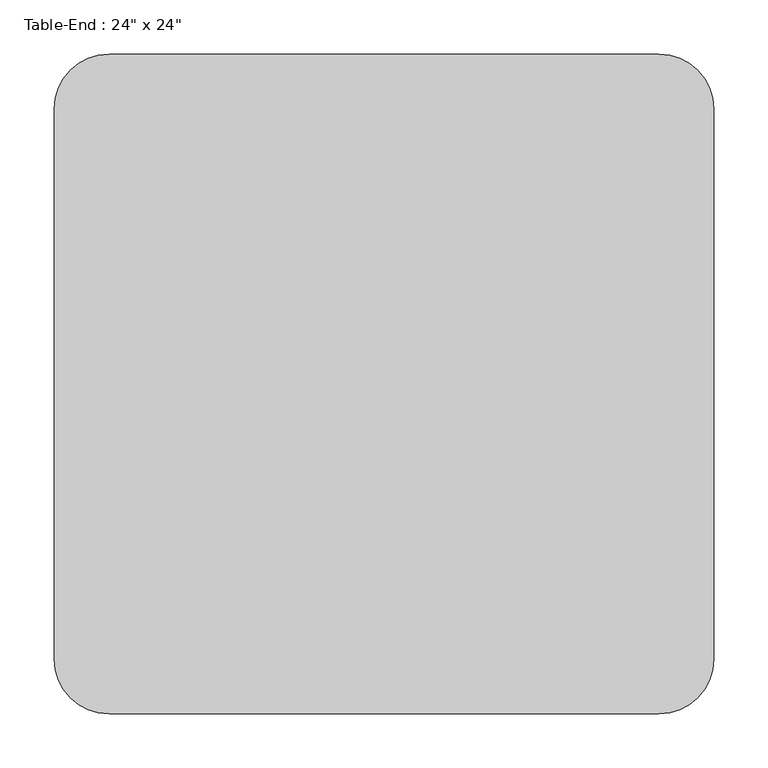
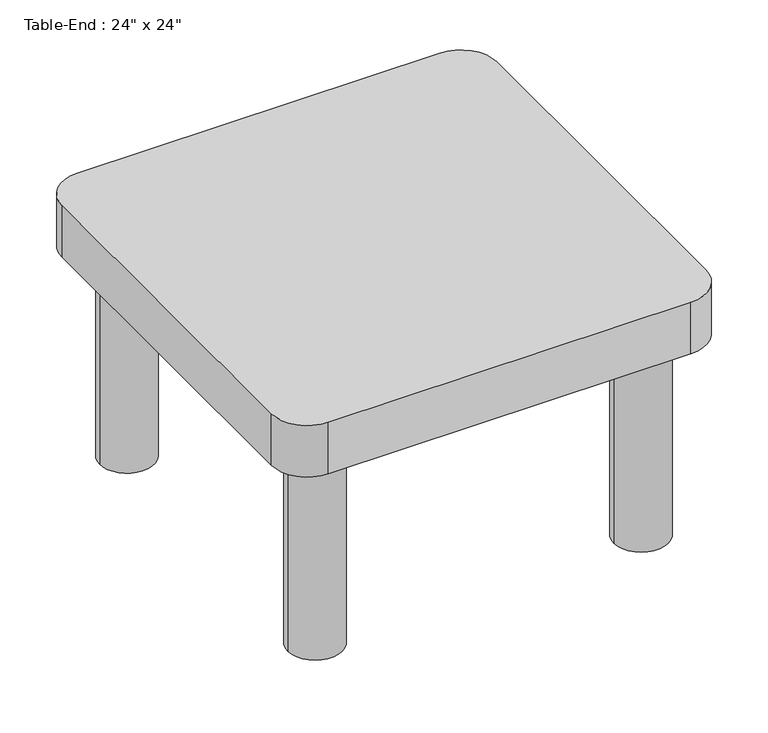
"""IFC4 building model written with IfcOpenShell, lengths in millimetres: furniture geometry."""

from ifc_helpers import new_model, si_unit, point, frame, frame_2d, origin, origin_with_axes, place, context, project, spatial, polyline, circle_curve, trimmed, segment, composite_curve, outline, extrude, source, transform, mapped, element, save


def furniture_1befe2a2(model_context):
    return source(origin(), model_context, "Body", "SweptSolid", [
        extrude(outline(composite_curve([segment(trimmed(circle_curve(frame_2d((562.5336303, 101.6)), 50.8), [point((562.5336303, 152.4))], [point((613.3336303, 101.6))], False, "CARTESIAN"), True, "CONTINUOUS"), segment(polyline([(613.3336303, 101.6), (613.3336303, -406.4)]), True, "CONTINUOUS"), segment(trimmed(circle_curve(frame_2d((562.5336303, -406.4)), 50.8), [point((613.3336303, -406.4))], [point((562.5336303, -457.2))], False, "CARTESIAN"), True, "CONTINUOUS"), segment(polyline([(562.5336303, -457.2), (54.5336303, -457.2)]), True, "CONTINUOUS"), segment(trimmed(circle_curve(frame_2d((54.5336303, -406.4)), 50.8), [point((54.5336303, -457.2))], [point((3.7336303, -406.4))], False, "CARTESIAN"), True, "CONTINUOUS"), segment(polyline([(3.7336303, -406.4), (3.7336303, 101.6)]), True, "CONTINUOUS"), segment(trimmed(circle_curve(frame_2d((54.5336303, 101.6)), 50.8), [point((3.7336303, 101.6))], [point((54.5336303, 152.4))], False, "CARTESIAN"), True, "CONTINUOUS"), segment(polyline([(54.5336303, 152.4), (562.5336303, 152.4)]), True, "CONTINUOUS")], self_intersect=False)), frame((0.0, 0.0, 304.8), z_axis=(0.0, 0.0, 1.0), x_axis=(1.0, 0.0, 0.0)), (0.0, 0.0, 1.0), 76.2),
        extrude(outline(composite_curve([segment(trimmed(circle_curve(frame_2d((79.9336303, -381.0)), 38.1), [point((41.8336303, -381.0))], [point((118.0336303, -381.0))], False, "CARTESIAN"), True, "CONTINUOUS"), segment(trimmed(circle_curve(frame_2d((79.9336303, -381.0)), 38.1), [point((118.0336303, -381.0))], [point((41.8336303, -381.0))], False, "CARTESIAN"), True, "CONTINUOUS")], self_intersect=False)), origin_with_axes(), (0.0, 0.0, 1.0), 304.8),
        extrude(outline(composite_curve([segment(trimmed(circle_curve(frame_2d((79.9336303, 76.2)), 38.1), [point((41.8336303, 76.2))], [point((118.0336303, 76.2))], False, "CARTESIAN"), True, "CONTINUOUS"), segment(trimmed(circle_curve(frame_2d((79.9336303, 76.2)), 38.1), [point((118.0336303, 76.2))], [point((41.8336303, 76.2))], False, "CARTESIAN"), True, "CONTINUOUS")], self_intersect=False)), origin_with_axes(), (0.0, 0.0, 1.0), 304.8),
        extrude(outline(composite_curve([segment(trimmed(circle_curve(frame_2d((537.1336303, 76.2)), 38.1), [point((499.0336303, 76.2))], [point((575.2336303, 76.2))], False, "CARTESIAN"), True, "CONTINUOUS"), segment(trimmed(circle_curve(frame_2d((537.1336303, 76.2)), 38.1), [point((575.2336303, 76.2))], [point((499.0336303, 76.2))], False, "CARTESIAN"), True, "CONTINUOUS")], self_intersect=False)), origin_with_axes(), (0.0, 0.0, 1.0), 304.8),
        extrude(outline(composite_curve([segment(trimmed(circle_curve(frame_2d((537.1336303, -381.0)), 38.1), [point((499.0336303, -381.0))], [point((575.2336303, -381.0))], False, "CARTESIAN"), True, "CONTINUOUS"), segment(trimmed(circle_curve(frame_2d((537.1336303, -381.0)), 38.1), [point((575.2336303, -381.0))], [point((499.0336303, -381.0))], False, "CARTESIAN"), True, "CONTINUOUS")], self_intersect=False)), origin_with_axes(), (0.0, 0.0, 1.0), 304.8),
    ])


if __name__ == "__main__":
    model = new_model("IFC4")
    model_context = context("Model", 3, world=origin())
    ifc_project = project(units=[si_unit("LENGTHUNIT", "METRE", prefix="MILLI")], contexts=[model_context])
    site = spatial("IfcSite", under=ifc_project)
    building = spatial("IfcBuilding", under=site)
    placement = place(None, origin())
    furniture_shape = furniture_1befe2a2(model_context)
    element("IfcFurniture", 1, ObjectType="Table-End : 24\" x 24\"", at=placement, inside=building, context=model_context, shape_type="MappedRepresentation", body=[
        mapped(furniture_shape, transform((0.0, 0.0, 0.0), x_axis=(1.0, 0.0, 0.0), y_axis=(0.0, 1.0, 0.0), z_axis=(0.0, 0.0, 1.0))),
    ])
    save(model, "model.ifc")
